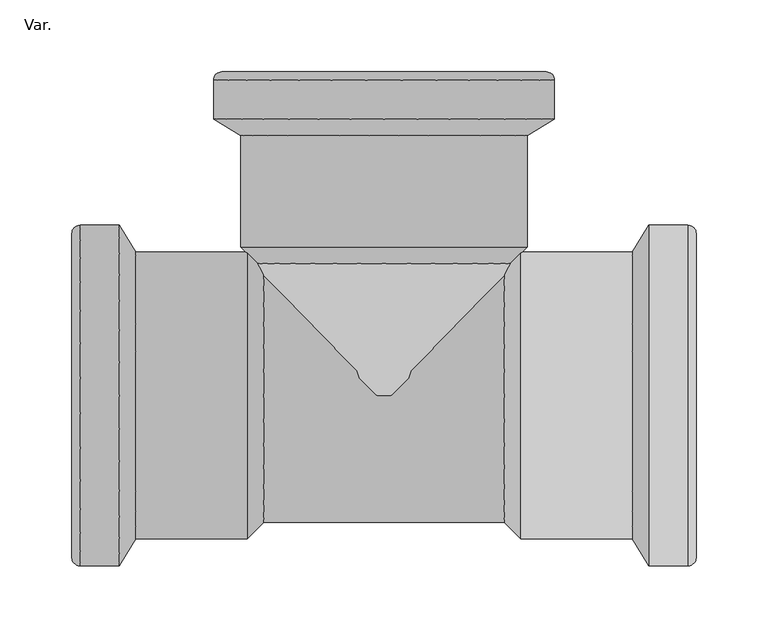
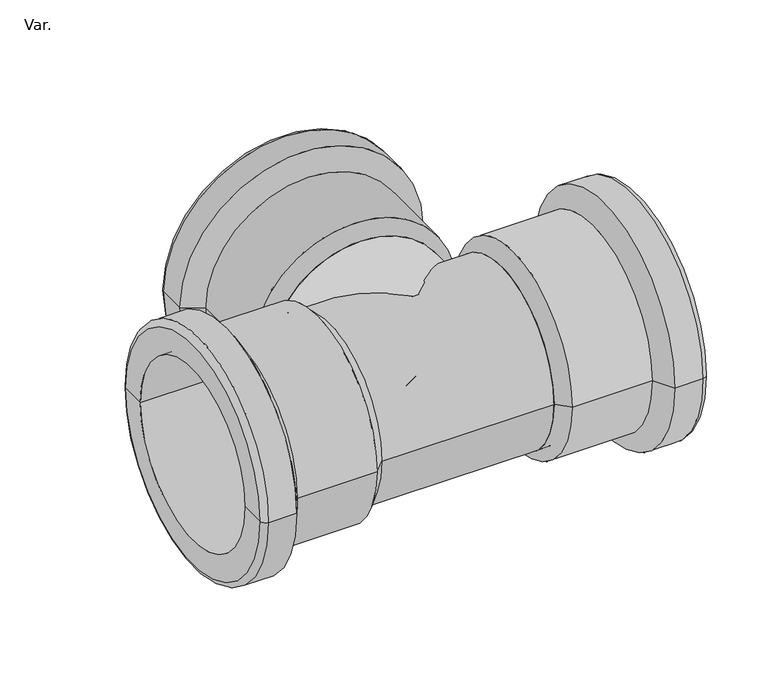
"""IFC4 building model written with IfcOpenShell, lengths in millimetres: pipe fitting geometry, AmancoWavin_UnionesDeTuberia_AwwaC900Tee : Var.."""

from ifc_helpers import new_model, si_unit, point, frame, origin, place, context, project, spatial, polyline, circle_curve, ellipse_curve, trimmed, source, transform, mapped, element, save
from ifc_brep_helpers import plane_surface, cylinder_surface, revolved_surface, advanced_brep


def var_000084ad(model_context):
    return source(origin(), model_context, "Body", "AdvancedBrep", [
        advanced_brep(
        [(-88.392, 92.075, 0.0), (88.392, 92.075, 0.0), (0.0, 92.075, 0.0), (-99.822, 180.975, 0.0), (99.822, 180.975, 0.0), (99.822, 103.505, 0.0), (-99.822, 103.505, 0.0), (-88.392, 225.425, 0.0), (88.392, 225.425, 0.0), (112.903, 225.425, 0.0), (-112.903, 225.425, 0.0), (-88.392, 103.505, 0.0), (88.392, 103.505, 0.0), (0.0, 103.505, 0.0), (-118.618, 192.405, 0.0), (118.618, 192.405, 0.0), (-118.618, 219.71, 0.0), (118.618, 219.71, 0.0)],
        [
            (0, 1, circle_curve(frame((0.0, 92.075, 0.0), z_axis=(0.0, -1.0, 0.0), x_axis=(1.0, 0.0, 0.0)), 88.392)),
            (1, 2),
            (2, 0),
            (1, 0, circle_curve(frame((0.0, 92.075, 0.0), z_axis=(0.0, -1.0, 0.0), x_axis=(1.0, 0.0, 0.0)), 88.392)),
            (3, 4, circle_curve(frame((0.0, 180.975, 0.0), z_axis=(0.0, -1.0, 0.0), x_axis=(1.0, 0.0, 0.0)), 99.822)),
            (4, 5),
            (5, 6, circle_curve(frame((0.0, 103.505, 0.0), z_axis=(0.0, 1.0, 0.0), x_axis=(1.0, 0.0, 0.0)), 99.822)),
            (6, 3),
            (4, 3, circle_curve(frame((0.0, 180.975, 0.0), z_axis=(0.0, -1.0, 0.0), x_axis=(1.0, 0.0, 0.0)), 99.822)),
            (6, 5, circle_curve(frame((0.0, 103.505, 0.0), z_axis=(0.0, 1.0, 0.0), x_axis=(1.0, 0.0, 0.0)), 99.822)),
            (7, 8, circle_curve(frame((0.0, 225.425, 0.0), z_axis=(0.0, -1.0, 0.0), x_axis=(1.0, 0.0, 0.0)), 88.392)),
            (8, 9),
            (9, 10, circle_curve(frame((0.0, 225.425, 0.0), z_axis=(0.0, 1.0, 0.0), x_axis=(1.0, 0.0, 0.0)), 112.903)),
            (10, 7),
            (8, 7, circle_curve(frame((0.0, 225.425, 0.0), z_axis=(0.0, -1.0, 0.0), x_axis=(1.0, 0.0, 0.0)), 88.392)),
            (10, 9, circle_curve(frame((0.0, 225.425, 0.0), z_axis=(0.0, 1.0, 0.0), x_axis=(1.0, 0.0, 0.0)), 112.903)),
            (11, 12, circle_curve(frame((0.0, 103.505, 0.0), z_axis=(0.0, -1.0, 0.0), x_axis=(1.0, 0.0, 0.0)), 88.392)),
            (12, 8),
            (7, 11),
            (12, 11, circle_curve(frame((0.0, 103.505, 0.0), z_axis=(0.0, -1.0, 0.0), x_axis=(1.0, 0.0, 0.0)), 88.392)),
            (13, 12),
            (11, 13),
            (5, 1),
            (0, 6),
            (14, 15, circle_curve(frame((0.0, 192.405, 0.0), z_axis=(0.0, -1.0, 0.0), x_axis=(1.0, 0.0, 0.0)), 118.618)),
            (15, 4),
            (3, 14),
            (15, 14, circle_curve(frame((0.0, 192.405, 0.0), z_axis=(0.0, -1.0, 0.0), x_axis=(1.0, 0.0, 0.0)), 118.618)),
            (16, 17, circle_curve(frame((0.0, 219.71, 0.0), z_axis=(0.0, -1.0, 0.0), x_axis=(1.0, 0.0, 0.0)), 118.618)),
            (17, 15),
            (14, 16),
            (17, 16, circle_curve(frame((0.0, 219.71, 0.0), z_axis=(0.0, -1.0, 0.0), x_axis=(1.0, 0.0, 0.0)), 118.618)),
            (9, 17, circle_curve(frame((112.903, 219.71, 0.0), z_axis=(0.0, 0.0, -1.0), x_axis=(0.0, -1.0, 0.0)), 5.715)),
            (16, 10, circle_curve(frame((-112.903, 219.71, 0.0), z_axis=(0.0, 0.0, -1.0), x_axis=(0.0, -1.0, 0.0)), 5.715)),
        ],
        [
            plane_surface(frame((0.0, 92.075, 0.0), z_axis=(0.0, -1.0, 0.0), x_axis=(1.0, 0.0, 0.0))),
            cylinder_surface(frame((0.0, -1907.925, 0.0), z_axis=(0.0, 1.0, 0.0), x_axis=(1.0, 0.0, 0.0)), 99.822),
            plane_surface(frame((0.0, 225.425, 0.0), z_axis=(0.0, 1.0, 0.0), x_axis=(1.0, 0.0, 0.0))),
            revolved_surface(polyline([(88.392, 225.42499999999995, 0.0), (88.392, 103.50499999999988, 0.0)]), (0.0, -1907.925, 0.0), (0.0, 1.0, 0.0)),
            plane_surface(frame((0.0, 103.505, 0.0), z_axis=(0.0, 1.0, 0.0), x_axis=(1.0, 0.0, 0.0))),
            revolved_surface(polyline([(88.392, 92.075, 0.0), (99.822, 103.505, 0.0)]), (0.0, -1907.925, 0.0), (0.0, 1.0, 0.0)),
            revolved_surface(polyline([(99.822, 180.975, 0.0), (118.618, 192.405, 0.0)]), (0.0, -1907.925, 0.0), (0.0, 1.0, 0.0)),
            cylinder_surface(frame((0.0, -1907.925, 0.0), z_axis=(0.0, 1.0, 0.0), x_axis=(1.0, 0.0, 0.0)), 118.618),
            revolved_surface(trimmed(ellipse_curve(frame((112.903, 219.71, 0.0), z_axis=(0.0, 0.0, 1.0), x_axis=(0.0, -1.0, 0.0)), 5.715, 5.715), [point((118.618, 219.71, 0.0))], [point((112.903, 225.425, 0.0))], True, "CARTESIAN"), (0.0, -1907.925, 0.0), (0.0, 1.0, 0.0)),
        ],
        [
            (0, [[1, 2, 3]]),
            (0, [[4, -3, -2]]),
            (1, [[5, 6, 7, 8]]),
            (1, [[9, -8, 10, -6]]),
            (2, [[11, 12, 13, 14]]),
            (2, [[15, -14, 16, -12]]),
            (3, [[17, 18, -11, 19]]),
            (3, [[20, -19, -15, -18]]),
            (4, [[21, -17, 22]]),
            (4, [[-22, -20, -21]]),
            (5, [[-7, 23, -1, 24]]),
            (5, [[-10, -24, -4, -23]]),
            (6, [[25, 26, -5, 27]]),
            (6, [[28, -27, -9, -26]]),
            (7, [[29, 30, -25, 31]]),
            (7, [[32, -31, -28, -30]]),
            (8, [[-13, 33, -29, 34]]),
            (8, [[-16, -34, -32, -33]]),
        ],
    ),
        advanced_brep(
        [(83.82, 88.392, 0.0), (83.82, -88.392, 0.0), (83.82, 0.0, 0.0), (172.72, 99.822, 0.0), (172.72, -99.822, 0.0), (95.25, -99.822, 0.0), (95.25, 99.822, 0.0), (217.17, 88.392, 0.0), (217.17, -88.392, 0.0), (217.17, -112.903, 0.0), (217.17, 112.903, 0.0), (95.25, 88.392, 0.0), (95.25, -88.392, 0.0), (95.25, 0.0, 0.0), (184.15, 118.618, 0.0), (184.15, -118.618, 0.0), (211.455, 118.618, 0.0), (211.455, -118.618, 0.0)],
        [
            (0, 1, circle_curve(frame((83.82, 0.0, 0.0), z_axis=(-1.0, 0.0, 0.0), x_axis=(0.0, -1.0, 0.0)), 88.392)),
            (1, 2),
            (2, 0),
            (1, 0, circle_curve(frame((83.82, 0.0, 0.0), z_axis=(-1.0, 0.0, 0.0), x_axis=(0.0, -1.0, 0.0)), 88.392)),
            (3, 4, circle_curve(frame((172.72, 0.0, 0.0), z_axis=(-1.0, 0.0, 0.0), x_axis=(0.0, -1.0, 0.0)), 99.822)),
            (4, 5),
            (5, 6, circle_curve(frame((95.25, 0.0, 0.0), z_axis=(1.0, 0.0, 0.0), x_axis=(0.0, -1.0, 0.0)), 99.822)),
            (6, 3),
            (4, 3, circle_curve(frame((172.72, 0.0, 0.0), z_axis=(-1.0, 0.0, 0.0), x_axis=(0.0, -1.0, 0.0)), 99.822)),
            (6, 5, circle_curve(frame((95.25, 0.0, 0.0), z_axis=(1.0, 0.0, 0.0), x_axis=(0.0, -1.0, 0.0)), 99.822)),
            (7, 8, circle_curve(frame((217.17, 0.0, 0.0), z_axis=(-1.0, 0.0, 0.0), x_axis=(0.0, -1.0, 0.0)), 88.392)),
            (8, 9),
            (9, 10, circle_curve(frame((217.17, 0.0, 0.0), z_axis=(1.0, 0.0, 0.0), x_axis=(0.0, -1.0, 0.0)), 112.903)),
            (10, 7),
            (8, 7, circle_curve(frame((217.17, 0.0, 0.0), z_axis=(-1.0, 0.0, 0.0), x_axis=(0.0, -1.0, 0.0)), 88.392)),
            (10, 9, circle_curve(frame((217.17, 0.0, 0.0), z_axis=(1.0, 0.0, 0.0), x_axis=(0.0, -1.0, 0.0)), 112.903)),
            (11, 12, circle_curve(frame((95.25, 0.0, 0.0), z_axis=(-1.0, 0.0, 0.0), x_axis=(0.0, -1.0, 0.0)), 88.392)),
            (12, 8),
            (7, 11),
            (12, 11, circle_curve(frame((95.25, 0.0, 0.0), z_axis=(-1.0, 0.0, 0.0), x_axis=(0.0, -1.0, 0.0)), 88.392)),
            (13, 12),
            (11, 13),
            (5, 1),
            (0, 6),
            (14, 15, circle_curve(frame((184.15, 0.0, 0.0), z_axis=(-1.0, 0.0, 0.0), x_axis=(0.0, -1.0, 0.0)), 118.618)),
            (15, 4),
            (3, 14),
            (15, 14, circle_curve(frame((184.15, 0.0, 0.0), z_axis=(-1.0, 0.0, 0.0), x_axis=(0.0, -1.0, 0.0)), 118.618)),
            (16, 17, circle_curve(frame((211.455, 0.0, 0.0), z_axis=(-1.0, 0.0, 0.0), x_axis=(0.0, -1.0, 0.0)), 118.618)),
            (17, 15),
            (14, 16),
            (17, 16, circle_curve(frame((211.455, 0.0, 0.0), z_axis=(-1.0, 0.0, 0.0), x_axis=(0.0, -1.0, 0.0)), 118.618)),
            (9, 17, circle_curve(frame((211.455, -112.903, 0.0), z_axis=(0.0, 0.0, -1.0), x_axis=(-1.0, 0.0, 0.0)), 5.715)),
            (16, 10, circle_curve(frame((211.455, 112.903, 0.0), z_axis=(0.0, 0.0, -1.0), x_axis=(-1.0, 0.0, 0.0)), 5.715)),
        ],
        [
            plane_surface(frame((83.82, 0.0, 0.0), z_axis=(-1.0, 0.0, 0.0), x_axis=(0.0, -1.0, 0.0))),
            cylinder_surface(frame((-1916.18, 0.0, 0.0), z_axis=(1.0, 0.0, 0.0), x_axis=(0.0, -1.0, 0.0)), 99.822),
            plane_surface(frame((217.17, 0.0, 0.0), z_axis=(1.0, 0.0, 0.0), x_axis=(0.0, -1.0, 0.0))),
            revolved_surface(polyline([(217.16999999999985, -88.392, 0.0), (95.25, -88.392, 0.0)]), (-1916.18, 0.0, 0.0), (1.0, 0.0, 0.0)),
            plane_surface(frame((95.25, 0.0, 0.0), z_axis=(1.0, 0.0, 0.0), x_axis=(0.0, -1.0, 0.0))),
            revolved_surface(polyline([(83.82, -88.392, 0.0), (95.25, -99.822, 0.0)]), (-1916.18, 0.0, 0.0), (1.0, 0.0, 0.0)),
            revolved_surface(polyline([(172.72, -99.822, 0.0), (184.15, -118.618, 0.0)]), (-1916.18, 0.0, 0.0), (1.0, 0.0, 0.0)),
            cylinder_surface(frame((-1916.18, 0.0, 0.0), z_axis=(1.0, 0.0, 0.0), x_axis=(0.0, -1.0, 0.0)), 118.618),
            revolved_surface(trimmed(ellipse_curve(frame((211.455, -112.903, 0.0), z_axis=(0.0, 0.0, 1.0), x_axis=(-1.0, 0.0, 0.0)), 5.715, 5.715), [point((211.455, -118.618, 0.0))], [point((217.17, -112.903, 0.0))], True, "CARTESIAN"), (-1916.18, 0.0, 0.0), (1.0, 0.0, 0.0)),
        ],
        [
            (0, [[1, 2, 3]]),
            (0, [[4, -3, -2]]),
            (1, [[5, 6, 7, 8]]),
            (1, [[9, -8, 10, -6]]),
            (2, [[11, 12, 13, 14]]),
            (2, [[15, -14, 16, -12]]),
            (3, [[17, 18, -11, 19]]),
            (3, [[20, -19, -15, -18]]),
            (4, [[21, -17, 22]]),
            (4, [[-22, -20, -21]]),
            (5, [[-7, 23, -1, 24]]),
            (5, [[-10, -24, -4, -23]]),
            (6, [[25, 26, -5, 27]]),
            (6, [[28, -27, -9, -26]]),
            (7, [[29, 30, -25, 31]]),
            (7, [[32, -31, -28, -30]]),
            (8, [[-13, 33, -29, 34]]),
            (8, [[-16, -34, -32, -33]]),
        ],
    ),
        advanced_brep(
        [(-83.82, -88.392, 0.0), (-83.82, 88.392, 0.0), (-83.82, 0.0, 0.0), (-172.72, -99.822, 0.0), (-172.72, 99.822, 0.0), (-95.25, 99.822, 0.0), (-95.25, -99.822, 0.0), (-217.17, -88.392, 0.0), (-217.17, 88.392, 0.0), (-217.17, 112.903, 0.0), (-217.17, -112.903, 0.0), (-95.25, -88.392, 0.0), (-95.25, 88.392, 0.0), (-95.25, 0.0, 0.0), (-184.15, -118.618, 0.0), (-184.15, 118.618, 0.0), (-211.455, -118.618, 0.0), (-211.455, 118.618, 0.0)],
        [
            (0, 1, circle_curve(frame((-83.82, 0.0, 0.0), z_axis=(1.0, 0.0, 0.0), x_axis=(0.0, 1.0, 0.0)), 88.392)),
            (1, 2),
            (2, 0),
            (1, 0, circle_curve(frame((-83.82, 0.0, 0.0), z_axis=(1.0, 0.0, 0.0), x_axis=(0.0, 1.0, 0.0)), 88.392)),
            (3, 4, circle_curve(frame((-172.72, 0.0, 0.0), z_axis=(1.0, 0.0, 0.0), x_axis=(0.0, 1.0, 0.0)), 99.822)),
            (4, 5),
            (5, 6, circle_curve(frame((-95.25, 0.0, 0.0), z_axis=(-1.0, 0.0, 0.0), x_axis=(0.0, 1.0, 0.0)), 99.822)),
            (6, 3),
            (4, 3, circle_curve(frame((-172.72, 0.0, 0.0), z_axis=(1.0, 0.0, 0.0), x_axis=(0.0, 1.0, 0.0)), 99.822)),
            (6, 5, circle_curve(frame((-95.25, 0.0, 0.0), z_axis=(-1.0, 0.0, 0.0), x_axis=(0.0, 1.0, 0.0)), 99.822)),
            (7, 8, circle_curve(frame((-217.17, 0.0, 0.0), z_axis=(1.0, 0.0, 0.0), x_axis=(0.0, 1.0, 0.0)), 88.392)),
            (8, 9),
            (9, 10, circle_curve(frame((-217.17, 0.0, 0.0), z_axis=(-1.0, 0.0, 0.0), x_axis=(0.0, 1.0, 0.0)), 112.903)),
            (10, 7),
            (8, 7, circle_curve(frame((-217.17, 0.0, 0.0), z_axis=(1.0, 0.0, 0.0), x_axis=(0.0, 1.0, 0.0)), 88.392)),
            (10, 9, circle_curve(frame((-217.17, 0.0, 0.0), z_axis=(-1.0, 0.0, 0.0), x_axis=(0.0, 1.0, 0.0)), 112.903)),
            (11, 12, circle_curve(frame((-95.25, 0.0, 0.0), z_axis=(1.0, 0.0, 0.0), x_axis=(0.0, 1.0, 0.0)), 88.392)),
            (12, 8),
            (7, 11),
            (12, 11, circle_curve(frame((-95.25, 0.0, 0.0), z_axis=(1.0, 0.0, 0.0), x_axis=(0.0, 1.0, 0.0)), 88.392)),
            (13, 12),
            (11, 13),
            (5, 1),
            (0, 6),
            (14, 15, circle_curve(frame((-184.15, 0.0, 0.0), z_axis=(1.0, 0.0, 0.0), x_axis=(0.0, 1.0, 0.0)), 118.618)),
            (15, 4),
            (3, 14),
            (15, 14, circle_curve(frame((-184.15, 0.0, 0.0), z_axis=(1.0, 0.0, 0.0), x_axis=(0.0, 1.0, 0.0)), 118.618)),
            (16, 17, circle_curve(frame((-211.455, 0.0, 0.0), z_axis=(1.0, 0.0, 0.0), x_axis=(0.0, 1.0, 0.0)), 118.618)),
            (17, 15),
            (14, 16),
            (17, 16, circle_curve(frame((-211.455, 0.0, 0.0), z_axis=(1.0, 0.0, 0.0), x_axis=(0.0, 1.0, 0.0)), 118.618)),
            (9, 17, circle_curve(frame((-211.455, 112.903, 0.0), z_axis=(0.0, 0.0, -1.0), x_axis=(1.0, 0.0, 0.0)), 5.715)),
            (16, 10, circle_curve(frame((-211.455, -112.903, 0.0), z_axis=(0.0, 0.0, -1.0), x_axis=(1.0, 0.0, 0.0)), 5.715)),
        ],
        [
            plane_surface(frame((-83.82, 0.0, 0.0), z_axis=(1.0, 0.0, 0.0), x_axis=(0.0, 1.0, 0.0))),
            cylinder_surface(frame((1916.18, 0.0, 0.0), z_axis=(-1.0, 0.0, 0.0), x_axis=(0.0, 1.0, 0.0)), 99.822),
            plane_surface(frame((-217.17, 0.0, 0.0), z_axis=(-1.0, 0.0, 0.0), x_axis=(0.0, 1.0, 0.0))),
            revolved_surface(polyline([(-217.16999999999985, 88.392, 0.0), (-95.25, 88.392, 0.0)]), (1916.18, 0.0, 0.0), (-1.0, 0.0, 0.0)),
            plane_surface(frame((-95.25, 0.0, 0.0), z_axis=(-1.0, 0.0, 0.0), x_axis=(0.0, 1.0, 0.0))),
            revolved_surface(polyline([(-83.82, 88.392, 0.0), (-95.25, 99.822, 0.0)]), (1916.18, 0.0, 0.0), (-1.0, 0.0, 0.0)),
            revolved_surface(polyline([(-172.72, 99.822, 0.0), (-184.15, 118.618, 0.0)]), (1916.18, 0.0, 0.0), (-1.0, 0.0, 0.0)),
            cylinder_surface(frame((1916.18, 0.0, 0.0), z_axis=(-1.0, 0.0, 0.0), x_axis=(0.0, 1.0, 0.0)), 118.618),
            revolved_surface(trimmed(ellipse_curve(frame((-211.455, 112.903, 0.0), z_axis=(0.0, 0.0, 1.0), x_axis=(1.0, 0.0, 0.0)), 5.715, 5.715), [point((-211.455, 118.618, 0.0))], [point((-217.17, 112.903, 0.0))], True, "CARTESIAN"), (1916.18, 0.0, 0.0), (-1.0, 0.0, 0.0)),
        ],
        [
            (0, [[1, 2, 3]]),
            (0, [[4, -3, -2]]),
            (1, [[5, 6, 7, 8]]),
            (1, [[9, -8, 10, -6]]),
            (2, [[11, 12, 13, 14]]),
            (2, [[15, -14, 16, -12]]),
            (3, [[17, 18, -11, 19]]),
            (3, [[20, -19, -15, -18]]),
            (4, [[21, -17, 22]]),
            (4, [[-22, -20, -21]]),
            (5, [[-7, 23, -1, 24]]),
            (5, [[-10, -24, -4, -23]]),
            (6, [[25, 26, -5, 27]]),
            (6, [[28, -27, -9, -26]]),
            (7, [[29, 30, -25, 31]]),
            (7, [[32, -31, -28, -30]]),
            (8, [[-13, 33, -29, 34]]),
            (8, [[-16, -34, -32, -33]]),
        ],
    ),
        advanced_brep(
        [(88.392, 103.505, 0.0), (-88.392, 103.505, 0.0), (0.0, 103.505, 0.0), (88.392, 0.0, 0.0), (-88.392, 0.0, 0.0), (0.0, 0.0, 0.0)],
        [
            (0, 1, circle_curve(frame((0.0, 103.505, 0.0), z_axis=(0.0, 1.0, 0.0), x_axis=(-1.0, 0.0, 0.0)), 88.392)),
            (1, 2),
            (2, 0),
            (1, 0, circle_curve(frame((0.0, 103.505, 0.0), z_axis=(0.0, 1.0, 0.0), x_axis=(-1.0, 0.0, 0.0)), 88.392)),
            (3, 4, circle_curve(frame((0.0, 0.0, 0.0), z_axis=(0.0, 1.0, 0.0), x_axis=(-1.0, 0.0, 0.0)), 88.392)),
            (4, 1),
            (0, 3),
            (4, 3, circle_curve(frame((0.0, 0.0, 0.0), z_axis=(0.0, 1.0, 0.0), x_axis=(-1.0, 0.0, 0.0)), 88.392)),
            (5, 4),
            (3, 5),
        ],
        [
            plane_surface(frame((0.0, 103.505, 0.0), z_axis=(0.0, 1.0, 0.0), x_axis=(-1.0, 0.0, 0.0))),
            cylinder_surface(frame((0.0, 0.0, 0.0), z_axis=(0.0, -1.0, 0.0), x_axis=(-1.0, 0.0, 0.0)), 88.392),
            plane_surface(frame((0.0, 0.0, 0.0), z_axis=(0.0, -1.0, 0.0), x_axis=(-1.0, 0.0, 0.0))),
        ],
        [
            (0, [[1, 2, 3]]),
            (0, [[4, -3, -2]]),
            (1, [[5, 6, -1, 7]]),
            (1, [[8, -7, -4, -6]]),
            (2, [[9, -5, 10]]),
            (2, [[-10, -8, -9]]),
        ],
    ),
        advanced_brep(
        [(-95.25, -88.392, 0.0), (-95.25, 88.392, 0.0), (95.25, 88.392, 0.0), (95.25, -88.392, 0.0), (-95.25, 0.0, 0.0), (95.25, 0.0, 0.0)],
        [
            (0, 1, circle_curve(frame((-95.25, 0.0, 0.0), z_axis=(1.0, 0.0, 0.0), x_axis=(0.0, 1.0, 0.0)), 88.392)),
            (1, 2),
            (2, 3, circle_curve(frame((95.25, 0.0, 0.0), z_axis=(-1.0, 0.0, 0.0), x_axis=(0.0, 1.0, 0.0)), 88.392)),
            (3, 0),
            (1, 0, circle_curve(frame((-95.25, 0.0, 0.0), z_axis=(1.0, 0.0, 0.0), x_axis=(0.0, 1.0, 0.0)), 88.392)),
            (3, 2, circle_curve(frame((95.25, 0.0, 0.0), z_axis=(-1.0, 0.0, 0.0), x_axis=(0.0, 1.0, 0.0)), 88.392)),
            (4, 1),
            (0, 4),
            (2, 5),
            (5, 3),
        ],
        [
            cylinder_surface(frame((1991.75, 0.0, 0.0), z_axis=(-1.0, 0.0, 0.0), x_axis=(0.0, 1.0, 0.0)), 88.392),
            plane_surface(frame((-95.25, 0.0, 0.0), z_axis=(-1.0, 0.0, 0.0), x_axis=(0.0, 1.0, 0.0))),
            plane_surface(frame((95.25, 0.0, 0.0), z_axis=(1.0, 0.0, 0.0), x_axis=(0.0, 1.0, 0.0))),
        ],
        [
            (0, [[1, 2, 3, 4]]),
            (0, [[5, -4, 6, -2]]),
            (1, [[7, -1, 8]]),
            (1, [[-8, -5, -7]]),
            (2, [[-3, 9, 10]]),
            (2, [[-6, -10, -9]]),
        ],
    ),
    ])


if __name__ == "__main__":
    model = new_model("IFC4")
    model_context = context("Model", 3, world=origin())
    ifc_project = project(units=[si_unit("LENGTHUNIT", "METRE", prefix="MILLI")], contexts=[model_context])
    site = spatial("IfcSite", under=ifc_project)
    building = spatial("IfcBuilding", under=site)
    placement = place(None, origin())
    var_shape = var_000084ad(model_context)
    element("IfcPipeFitting", 1, ObjectType="AmancoWavin_UnionesDeTuberia_AwwaC900Tee : Var.", at=placement, inside=building, context=model_context, shape_type="MappedRepresentation", body=[
        mapped(var_shape, transform((0.0, 0.0, 0.0), x_axis=(1.0, 0.0, 0.0), y_axis=(0.0, 1.0, 0.0), z_axis=(0.0, 0.0, 1.0))),
    ])
    save(model, "model.ifc")
